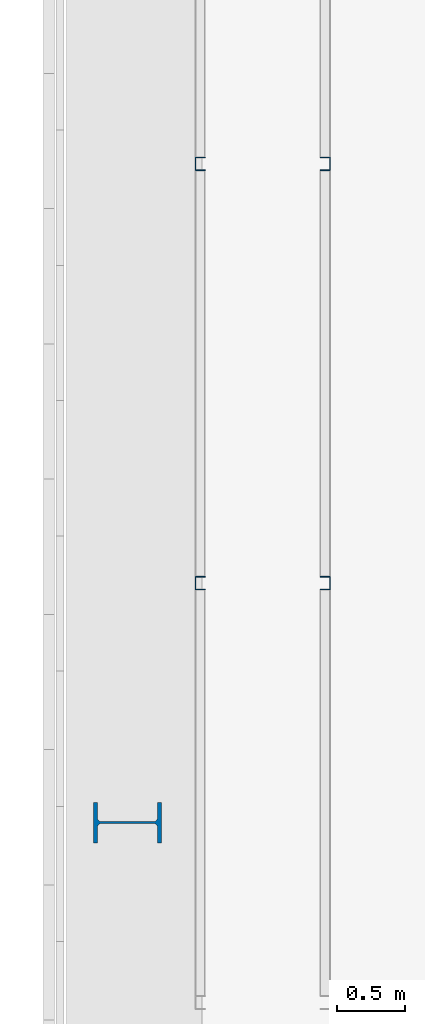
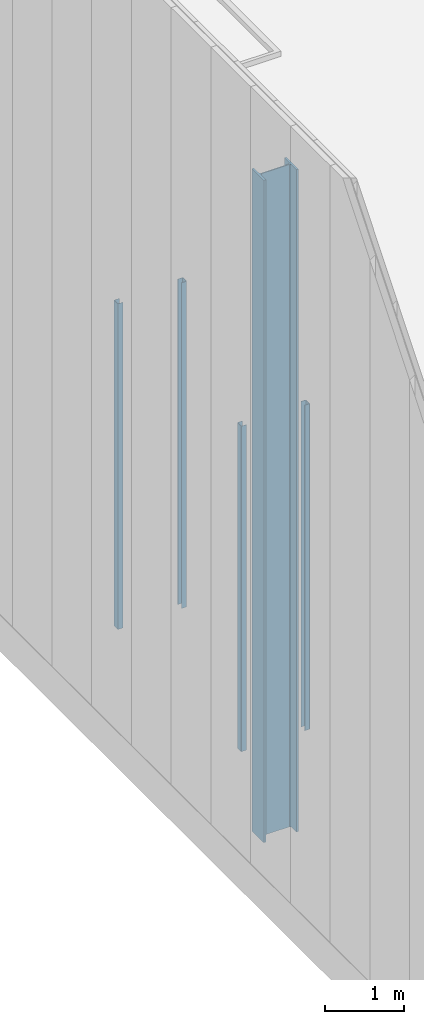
# One storey, part 36 of 302: 5 columns.
"""IFC2X3 building model written with IfcOpenShell, lengths in metres."""

from ifc_helpers import new_model, entity, si_unit, converted_unit, derived_unit, direction, frame, frame_2d, origin, place, context, subcontext, project, spatial, polyline, circle_curve, parameter, trimmed, segment, composite_curve, outline, extrude, source, transform, mapped, material, type_object, type_shapes, element, save


model = new_model("IFC2X3")

# Units and contexts
model_context = context("Model", 3, precision=1e-05, world=origin(), true_north=direction((6.12303176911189e-17, 1.0)))
body_context = subcontext(model_context, "Body", "Model", "MODEL_VIEW")
ifc_project = project(units=[si_unit("LENGTHUNIT", "METRE"), si_unit("AREAUNIT", "SQUARE_METRE"), si_unit("VOLUMEUNIT", "CUBIC_METRE"), converted_unit("PLANEANGLEUNIT", "DEGREE", entity("IfcRatioMeasure", 0.0174532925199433), si_unit("PLANEANGLEUNIT", "RADIAN"), dimensions=[0, 0, 0, 0, 0, 0, 0]), si_unit("MASSUNIT", "GRAM", prefix="KILO"), derived_unit("MASSDENSITYUNIT", [(si_unit("MASSUNIT", "GRAM", prefix="KILO"), 1), (si_unit("LENGTHUNIT", "METRE"), -3)]), derived_unit("MOMENTOFINERTIAUNIT", [(si_unit("LENGTHUNIT", "METRE"), 4)]), si_unit("TIMEUNIT", "SECOND"), si_unit("FREQUENCYUNIT", "HERTZ"), si_unit("THERMODYNAMICTEMPERATUREUNIT", "DEGREE_CELSIUS"), derived_unit("THERMALTRANSMITTANCEUNIT", [(si_unit("MASSUNIT", "GRAM", prefix="KILO"), 1), (si_unit("THERMODYNAMICTEMPERATUREUNIT", "KELVIN"), -1), (si_unit("TIMEUNIT", "SECOND"), -3)]), derived_unit("VOLUMETRICFLOWRATEUNIT", [(si_unit("LENGTHUNIT", "METRE"), 3), (si_unit("TIMEUNIT", "SECOND"), -1)]), si_unit("ELECTRICCURRENTUNIT", "AMPERE"), si_unit("ELECTRICVOLTAGEUNIT", "VOLT"), si_unit("POWERUNIT", "WATT"), si_unit("FORCEUNIT", "NEWTON", prefix="KILO"), si_unit("ILLUMINANCEUNIT", "LUX"), si_unit("LUMINOUSFLUXUNIT", "LUMEN"), si_unit("LUMINOUSINTENSITYUNIT", "CANDELA"), derived_unit("USERDEFINED", [(si_unit("MASSUNIT", "GRAM", prefix="KILO"), -1), (si_unit("LENGTHUNIT", "METRE"), -2), (si_unit("TIMEUNIT", "SECOND"), 3), (si_unit("LUMINOUSFLUXUNIT", "LUMEN"), 1)]), derived_unit("LINEARVELOCITYUNIT", [(si_unit("LENGTHUNIT", "METRE"), 1), (si_unit("TIMEUNIT", "SECOND"), -1)]), si_unit("PRESSUREUNIT", "PASCAL"), derived_unit("USERDEFINED", [(si_unit("LENGTHUNIT", "METRE"), -2), (si_unit("MASSUNIT", "GRAM", prefix="KILO"), 1), (si_unit("TIMEUNIT", "SECOND"), -2)]), derived_unit("LINEARFORCEUNIT", [(si_unit("MASSUNIT", "GRAM", prefix="KILO"), 1), (si_unit("LENGTHUNIT", "METRE"), 1), (si_unit("TIMEUNIT", "SECOND"), -2), (si_unit("LENGTHUNIT", "METRE"), -1)]), derived_unit("PLANARFORCEUNIT", [(si_unit("MASSUNIT", "GRAM", prefix="KILO"), 1), (si_unit("LENGTHUNIT", "METRE"), 1), (si_unit("TIMEUNIT", "SECOND"), -2), (si_unit("LENGTHUNIT", "METRE"), -2)])], contexts=[model_context])

# Site, building, storey
site_placement = place(None, origin())
site = spatial("IfcSite", under=ifc_project, at=site_placement, Name="Default", CompositionType="ELEMENT")
building_placement = place(site_placement, origin())
building = spatial("IfcBuilding", under=site, at=building_placement, CompositionType="ELEMENT")
storey_placement = place(building_placement, frame((0.0, 0.0, -1.3)))
storey = spatial("IfcBuildingStorey", under=building, at=storey_placement, Name="00_EG", CompositionType="ELEMENT", Elevation=-1.3)

# Columns
ifc_material = material(Name="Metall - Baustahl S235")
column_type_1 = type_object("IfcColumnType", Name="HEB Stütze:HEB 500", PredefinedType="COLUMN", material=ifc_material)
shared_shape_1 = source(origin(), body_context, "Body", "SweptSolid", [
    extrude(outline(composite_curve([segment(polyline([(0.222, -0.15), (0.25, -0.15)]), True, "CONTINUOUS"), segment(polyline([(0.25, -0.15), (0.25, 0.15)]), True, "CONTINUOUS"), segment(polyline([(0.25, 0.15), (0.222, 0.15)]), True, "CONTINUOUS"), segment(polyline([(0.222, 0.15), (0.222, 0.0342500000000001)]), True, "CONTINUOUS"), segment(trimmed(circle_curve(frame_2d((0.195, 0.0342500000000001), x_axis=(1.0, 0.0)), 0.0270000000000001), [parameter(270.0)], [parameter(0.0)], True, "PARAMETER"), False, "CONTINUOUS"), segment(polyline([(0.195, 0.00724999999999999), (-0.195, 0.00724999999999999)]), True, "CONTINUOUS"), segment(trimmed(circle_curve(frame_2d((-0.195, 0.03425), x_axis=(0.0, -1.0)), 0.027), [parameter(270.0)], [parameter(0.0)], True, "PARAMETER"), False, "CONTINUOUS"), segment(polyline([(-0.222, 0.0342500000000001), (-0.222, 0.15)]), True, "CONTINUOUS"), segment(polyline([(-0.222, 0.15), (-0.25, 0.15)]), True, "CONTINUOUS"), segment(polyline([(-0.25, 0.15), (-0.25, -0.15)]), True, "CONTINUOUS"), segment(polyline([(-0.25, -0.15), (-0.222, -0.15)]), True, "CONTINUOUS"), segment(polyline([(-0.222, -0.15), (-0.222, -0.03425)]), True, "CONTINUOUS"), segment(trimmed(circle_curve(frame_2d((-0.195, -0.03425), x_axis=(-1.0, 0.0)), 0.027), [parameter(269.999999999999)], [parameter(0.0)], True, "PARAMETER"), False, "CONTINUOUS"), segment(polyline([(-0.195, -0.00724999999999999), (0.195, -0.00724999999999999)]), True, "CONTINUOUS"), segment(trimmed(circle_curve(frame_2d((0.195, -0.03425), x_axis=(0.0, 1.0)), 0.027), [parameter(270.0)], [parameter(0.0)], True, "PARAMETER"), False, "CONTINUOUS"), segment(polyline([(0.222, -0.0342499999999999), (0.222, -0.15)]), True, "CONTINUOUS")], self_intersect=False)), frame((0.0, 0.0, -0.0300000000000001), z_axis=(0.0, 0.0, 1.0), x_axis=(0.0, -1.0, 0.0)), (0.0, 0.0, 1.0), 10.175),
])
type_shapes(column_type_1, [shared_shape_1])
column_placement = place(storey_placement, frame((-206.990111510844, 56.628088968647, 1.3), z_axis=(0.0, 0.0, 1.0), x_axis=(0.0, -1.0, 0.0)))
element("IfcColumn", 1, at=column_placement, inside=storey, type_object=column_type_1, material=ifc_material, Name="HEB Stütze:HEB 500", ObjectType="HEB Stütze:HEB 500", context=body_context, shape_type="MappedRepresentation", body=[
    mapped(shared_shape_1, transform((0.0, 0.0, 0.0), scale=1.0)),
])
column_type_2 = type_object("IfcColumnType", Name="Leichter Stahl Schlossschrauben Stütze:C 100", PredefinedType="COLUMN", material=ifc_material)
shared_shape_2 = source(origin(), body_context, "Body", "SweptSolid", [
    extrude(outline(composite_curve([segment(polyline([(-0.0469749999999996, -0.0499999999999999), (0.0214500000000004, -0.0499999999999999)]), True, "CONTINUOUS"), segment(trimmed(circle_curve(frame_2d((0.0214500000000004, -0.0434249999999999), x_axis=(0.0, -1.0)), 0.00657500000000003), [parameter(0.0)], [parameter(89.9999999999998)], True, "PARAMETER"), True, "CONTINUOUS"), segment(polyline([(0.0280250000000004, -0.0434249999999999), (0.0280250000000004, 0.0434250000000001)]), True, "CONTINUOUS"), segment(trimmed(circle_curve(frame_2d((0.0214500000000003, 0.0434250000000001), x_axis=(1.0, 0.0)), 0.0065750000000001), [parameter(0.0)], [parameter(89.9999999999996)], True, "PARAMETER"), True, "CONTINUOUS"), segment(polyline([(0.0214500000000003, 0.0500000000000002), (-0.0469750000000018, 0.0500000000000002)]), True, "CONTINUOUS"), segment(polyline([(-0.0469750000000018, 0.0500000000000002), (-0.0469750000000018, 0.0450000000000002)]), True, "CONTINUOUS"), segment(polyline([(-0.0469750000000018, 0.0450000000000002), (0.0214500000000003, 0.0450000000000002)]), True, "CONTINUOUS"), segment(trimmed(circle_curve(frame_2d((0.0214500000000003, 0.0434249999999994), x_axis=(0.0, 1.0)), 0.00157500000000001), [parameter(269.999999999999)], [parameter(0.0)], True, "PARAMETER"), False, "CONTINUOUS"), segment(polyline([(0.0230250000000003, 0.0434249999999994), (0.0230250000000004, -0.0434249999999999)]), True, "CONTINUOUS"), segment(trimmed(circle_curve(frame_2d((0.0214500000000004, -0.0434249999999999), x_axis=(1.0, 0.0)), 0.00157500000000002), [parameter(270.0)], [parameter(0.0)], True, "PARAMETER"), False, "CONTINUOUS"), segment(polyline([(0.0214500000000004, -0.0449999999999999), (-0.0469749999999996, -0.0449999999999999)]), True, "CONTINUOUS"), segment(polyline([(-0.0469749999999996, -0.0449999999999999), (-0.0469749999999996, -0.0499999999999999)]), True, "CONTINUOUS")], self_intersect=False)), frame((0.0499999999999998, 0.0280250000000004, -0.0300000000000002), z_axis=(0.0, 0.0, 1.0), x_axis=(0.0, -1.0, 0.0)), (0.0, 0.0, 1.0), 5.0),
])
type_shapes(column_type_2, [shared_shape_2])
for number, where, z_axis, x_axis in (
    (2, (-206.490111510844, 58.448088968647, 1.3), (0.0, 0.0, 1.0), (0.0, -1.0, 0.0)),
    (3, (-206.490111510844, 61.5480889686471, 1.3), (0.0, 0.0, 1.0), (0.0, -1.0, 0.0)),
):
    element("IfcColumn", number, at=place(storey_placement, frame(where, z_axis=z_axis, x_axis=x_axis)), inside=storey, type_object=column_type_2, material=ifc_material, Name="Leichter Stahl Schlossschrauben Stütze:C 100", ObjectType="Leichter Stahl Schlossschrauben Stütze:C 100", context=body_context, shape_type="MappedRepresentation", body=[
        mapped(shared_shape_2, transform((0.0, 0.0, 0.0), scale=1.0)),
    ])
column_type_3 = type_object("IfcColumnType", Name="Leichter Stahl Schlossschrauben Stütze:C 100", PredefinedType="COLUMN", material=ifc_material)
shared_shape_3 = source(origin(), body_context, "Body", "SweptSolid", [
    extrude(outline(composite_curve([segment(polyline([(-0.0214500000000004, -0.0499999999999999), (0.0469749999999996, -0.0499999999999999)]), True, "CONTINUOUS"), segment(polyline([(0.0469749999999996, -0.0499999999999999), (0.0469749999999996, -0.0449999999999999)]), True, "CONTINUOUS"), segment(polyline([(0.0469749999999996, -0.0449999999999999), (-0.0214500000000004, -0.045)]), True, "CONTINUOUS"), segment(trimmed(circle_curve(frame_2d((-0.0214500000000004, -0.043425), x_axis=(0.0, -1.0)), 0.00157500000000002), [parameter(270.0)], [parameter(0.0)], True, "PARAMETER"), False, "CONTINUOUS"), segment(polyline([(-0.0230250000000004, -0.0434249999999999), (-0.0230250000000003, 0.0434249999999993)]), True, "CONTINUOUS"), segment(trimmed(circle_curve(frame_2d((-0.0214500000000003, 0.0434249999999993), x_axis=(-1.0, 0.0)), 0.00157500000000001), [parameter(269.999999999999)], [parameter(0.0)], True, "PARAMETER"), False, "CONTINUOUS"), segment(polyline([(-0.0214500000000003, 0.0450000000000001), (0.0469750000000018, 0.0450000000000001)]), True, "CONTINUOUS"), segment(polyline([(0.0469750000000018, 0.0450000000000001), (0.0469750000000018, 0.0500000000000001)]), True, "CONTINUOUS"), segment(polyline([(0.0469750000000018, 0.0500000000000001), (-0.0214500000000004, 0.0500000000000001)]), True, "CONTINUOUS"), segment(trimmed(circle_curve(frame_2d((-0.0214500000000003, 0.043425), x_axis=(0.0, 1.0)), 0.0065750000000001), [parameter(0.0)], [parameter(89.9999999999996)], True, "PARAMETER"), True, "CONTINUOUS"), segment(polyline([(-0.0280250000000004, 0.043425), (-0.0280250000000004, -0.043425)]), True, "CONTINUOUS"), segment(trimmed(circle_curve(frame_2d((-0.0214500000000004, -0.0434249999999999), x_axis=(-1.0, 0.0)), 0.00657500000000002), [parameter(0.0)], [parameter(89.9999999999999)], True, "PARAMETER"), True, "CONTINUOUS")], self_intersect=False)), frame((0.0499999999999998, -0.0280250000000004, -0.0300000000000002), z_axis=(0.0, 0.0, 1.0), x_axis=(0.0, -1.0, 0.0)), (0.0, 0.0, 1.0), 5.0),
])
type_shapes(column_type_3, [shared_shape_3])
for number, where, z_axis, x_axis in (
    (4, (-205.490111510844, 58.448088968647, 1.3), (0.0, 0.0, 1.0), (0.0, -1.0, 0.0)),
    (5, (-205.490111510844, 61.5480889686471, 1.3), (0.0, 0.0, 1.0), (0.0, -1.0, 0.0)),
):
    element("IfcColumn", number, at=place(storey_placement, frame(where, z_axis=z_axis, x_axis=x_axis)), inside=storey, type_object=column_type_3, material=ifc_material, Name="Leichter Stahl Schlossschrauben Stütze:C 100", ObjectType="Leichter Stahl Schlossschrauben Stütze:C 100", context=body_context, shape_type="MappedRepresentation", body=[
        mapped(shared_shape_3, transform((0.0, 0.0, 0.0), scale=1.0)),
    ])

save(model, "model.ifc")
